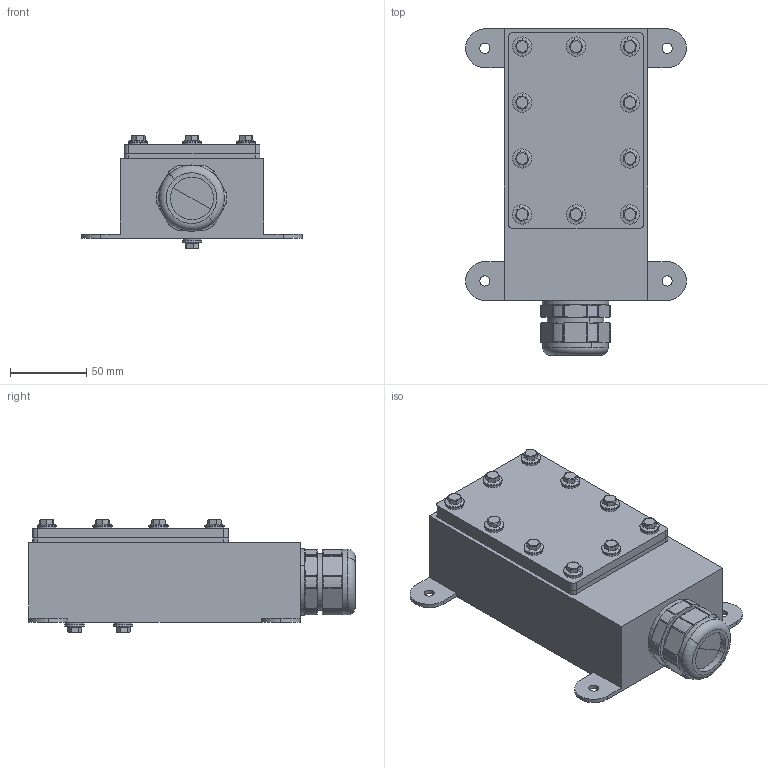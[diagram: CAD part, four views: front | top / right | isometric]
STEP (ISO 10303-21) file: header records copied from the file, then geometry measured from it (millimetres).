
FILE_DESCRIPTION (( 'STEP AP203' ), '1' );
FILE_NAME ('LD-CH-B.STEP', '2021-11-29T17:59:32', ( '' ), ( '' ), 'SwSTEP 2.0', 'SolidWorks 2021', '' );
FILE_SCHEMA (( 'CONFIG_CONTROL_DESIGN' ));
Length unit declared in the file: inch
Products named in the file (18): PG29-S01; PG29-B01; 800004; TJS050023X; 200950; PG29-I01; SP-M5-2; 200951; 400254; PG29-N01; 500224; LD-CH-B; 93635A160_DEFAULT; PG29-01-01-01-01_.060 GAP; 91292A108_91292A108; 200949; 800005; 400102
Assembly tree (40 placements, depth 3):
  LD-CH-B
    200950
      200949
      SP-M5-2  x10
    400254
    500224
    200951
    PG29-01-01-01-01_.060 GAP
      PG29-B01
      PG29-I01
      PG29-S01
      PG29-N01
    800004  x10
      800005
      400102
    93635A160_DEFAULT  x2
    TJS050023X  x2
    91292A108_91292A108  x4
Bounding box: 144.78 x 213.8 x 74.03 mm (x, y, z)
Volume: 268444.5 mm3; surface area: 197512.9 mm2
Topology: 47 solids, 47 shells, 2223 faces, 5779 edges, 3773 vertices
Faces by surface type: cylinder 1063, plane 857, cone 264, bspline 34, torus 5
Entity records: 28473 total; most frequent: CARTESIAN_POINT 11078, ORIENTED_EDGE 3218, DIRECTION 2972, EDGE_CURVE 1609, AXIS2_PLACEMENT_3D 1132, VERTEX_POINT 1049, EDGE_LOOP 738, VECTOR 708
